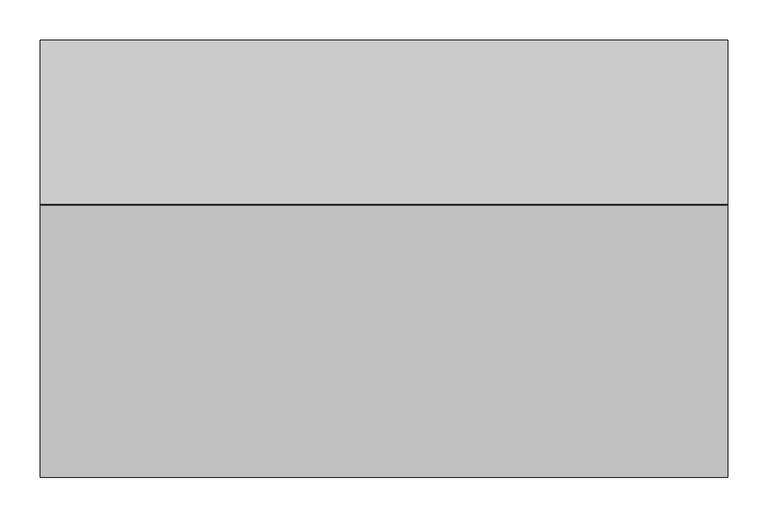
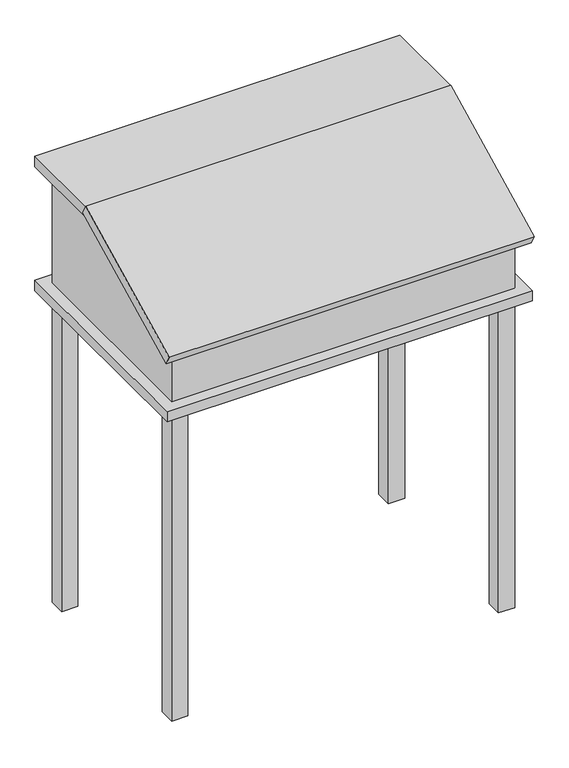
"""IFC4 building model written with IfcOpenShell, lengths in millimetres: furniture geometry, Rhonda's Desk : Rhonda's Desk."""

from ifc_helpers import new_model, si_unit, frame, origin, origin_with_axes, place, context, project, spatial, polyline, outline, extrude, source, transform, mapped, element, save


def furniture_cfd128db(model_context):
    return source(origin(), model_context, "Body", "SweptSolid", [
        extrude(outline(polyline([(87.7821956, 0.0), (87.7821956, -376.5091352), (-763.1178044, -376.5091352), (-763.1178044, 0.0), (87.7821956, 0.0)])), frame((-337.6678044, -530.3961977, 903.2019012), z_axis=(0.0, -0.4472135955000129, 0.8944271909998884), x_axis=(-1.0, 0.0, 0.0)), (0.0, 0.0, 1.0), 25.4),
        extrude(outline(polyline([(425.45, 0.0), (425.45, -203.2), (-425.45, -203.2), (-425.45, 0.0), (425.45, 0.0)])), frame((0.0, 0.0, 1066.8), z_axis=(0.0, 0.0, 1.0), x_axis=(1.0, 0.0, 0.0)), (0.0, 0.0, 1.0), 26.8076238),
        extrude(outline(polyline([(-508.0, 787.4), (-508.0, 914.4), (-203.2, 1066.8), (-25.4, 1066.8), (-25.4, 787.4), (-508.0, 787.4)])), frame((-400.05, 0.0, 0.0), z_axis=(1.0, 0.0, 0.0), x_axis=(0.0, 1.0, 0.0)), (0.0, 0.0, 1.0), 800.1),
        extrude(outline(polyline([(425.45, 0.0), (425.45, -533.4), (-425.45, -533.4), (-425.45, 0.0), (425.45, 0.0)])), frame((0.0, 0.0, 762.0), z_axis=(0.0, 0.0, 1.0), x_axis=(1.0, 0.0, 0.0)), (0.0, 0.0, 1.0), 25.4),
        extrude(outline(polyline([(-361.95, -508.0), (-400.05, -508.0), (-400.05, -469.9), (-361.95, -469.9), (-361.95, -508.0)])), origin_with_axes(), (0.0, 0.0, 1.0), 762.0),
        extrude(outline(polyline([(-361.95, -25.4), (-361.95, -63.5), (-400.05, -63.5), (-400.05, -25.4), (-361.95, -25.4)])), origin_with_axes(), (0.0, 0.0, 1.0), 762.0),
        extrude(outline(polyline([(361.95, -25.4), (400.05, -25.4), (400.05, -63.5), (361.95, -63.5), (361.95, -25.4)])), origin_with_axes(), (0.0, 0.0, 1.0), 762.0),
        extrude(outline(polyline([(361.95, -508.0), (361.95, -469.9), (400.05, -469.9), (400.05, -508.0), (361.95, -508.0)])), origin_with_axes(), (0.0, 0.0, 1.0), 762.0),
    ])


if __name__ == "__main__":
    model = new_model("IFC4")
    model_context = context("Model", 3, world=origin())
    ifc_project = project(units=[si_unit("LENGTHUNIT", "METRE", prefix="MILLI")], contexts=[model_context])
    site = spatial("IfcSite", under=ifc_project)
    building = spatial("IfcBuilding", under=site)
    placement = place(None, origin())
    furniture_shape = furniture_cfd128db(model_context)
    element("IfcFurniture", 1, ObjectType="Rhonda's Desk : Rhonda's Desk", at=placement, inside=building, context=model_context, shape_type="MappedRepresentation", body=[
        mapped(furniture_shape, transform((0.0, 0.0, 0.0), x_axis=(1.0, 0.0, 0.0), y_axis=(0.0, 1.0, 0.0), z_axis=(0.0, 0.0, 1.0))),
    ])
    save(model, "model.ifc")
